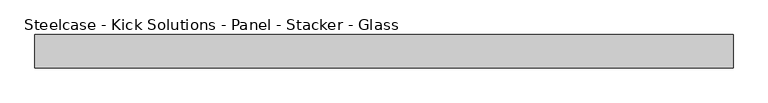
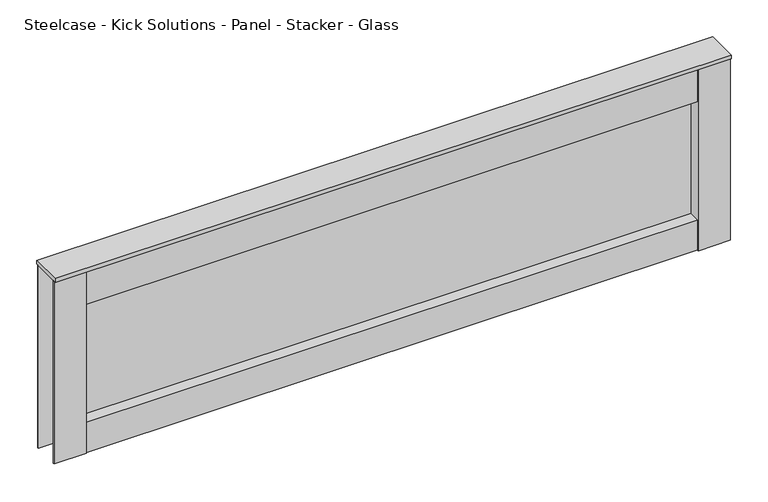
"""IFC4 building model written with IfcOpenShell, lengths in millimetres: furniture geometry, Steelcase - Kick Solutions - Panel - Stacker - Glass : 12H x 42W."""

from ifc_helpers import new_model, si_unit, frame, origin, place, context, project, spatial, polyline, outline, extrude, source, transform, mapped, element, save


def steelcase_kick_solutions_panel_stacker_glass_de6089d5(model_context):
    return source(origin(), model_context, "Body", "SweptSolid", [
        extrude(outline(polyline([(1016.0006661, -5.08), (1016.0006661, -45.7200015), (50.8006646, -45.7200015), (50.8006646, -5.08), (1016.0006661, -5.08)])), frame((0.0, 0.0, 1066.8), z_axis=(0.0, 0.0, 1.0), x_axis=(1.0, 0.0, 0.0)), (0.0, 0.0, 1.0), 50.6830951),
        extrude(outline(polyline([(1016.0006661, -5.08), (1016.0006661, -45.7200015), (50.8006646, -45.7200015), (50.8006646, -5.08), (1016.0006661, -5.08)])), frame((0.0, 0.0, 1314.45), z_axis=(0.0, 0.0, 1.0), x_axis=(1.0, 0.0, 0.0)), (0.0, 0.0, 1.0), 57.15),
        extrude(outline(polyline([(50.8006646, -3.1743148), (50.8006646, -47.6243142), (0.0, -47.6243142), (0.0, -45.7200015), (47.7526646, -45.7200015), (47.7526646, -5.08), (0.0, -5.08), (0.0, -3.1743148), (50.8006646, -3.1743148)])), frame((0.0, 0.0, 1066.8), z_axis=(0.0, 0.0, 1.0), x_axis=(1.0, 0.0, 0.0)), (0.0, 0.0, 1.0), 304.8),
        extrude(outline(polyline([(1016.0006661, -3.1743148), (1066.8, -3.1743148), (1066.8, -5.08), (1019.0486661, -5.08), (1019.0486661, -45.7200015), (1066.8, -45.7200015), (1066.8, -47.6243142), (1016.0006661, -47.6243142), (1016.0006661, -3.1743148)])), frame((0.0, 0.0, 1066.8), z_axis=(0.0, 0.0, 1.0), x_axis=(1.0, 0.0, 0.0)), (0.0, 0.0, 1.0), 304.8),
        extrude(outline(polyline([(1016.0006661, -28.422537), (50.8006646, -28.422537), (50.8006646, -25.4), (1016.0006661, -25.4), (1016.0006661, -28.422537)])), frame((0.0, 0.0, 1117.4830951), z_axis=(0.0, 0.0, 1.0), x_axis=(1.0, 0.0, 0.0)), (0.0, 0.0, 1.0), 196.9669049),
        extrude(outline(polyline([(1066.8, 0.0), (1066.8, -50.8000015), (0.0, -50.8000015), (0.0, 0.0), (1066.8, 0.0)])), frame((0.0, 0.0, 1371.6), z_axis=(0.0, 0.0, 1.0), x_axis=(1.0, 0.0, 0.0)), (0.0, 0.0, 1.0), 6.35),
    ])


if __name__ == "__main__":
    model = new_model("IFC4")
    model_context = context("Model", 3, world=origin())
    ifc_project = project(units=[si_unit("LENGTHUNIT", "METRE", prefix="MILLI")], contexts=[model_context])
    site = spatial("IfcSite", under=ifc_project)
    building = spatial("IfcBuilding", under=site)
    placement = place(None, origin())
    steelcase_kick_solutions_panel_stacker_glass_shape = steelcase_kick_solutions_panel_stacker_glass_de6089d5(model_context)
    element("IfcFurniture", 1, ObjectType="Steelcase - Kick Solutions - Panel - Stacker - Glass : 12H x 42W", at=placement, inside=building, context=model_context, shape_type="MappedRepresentation", body=[
        mapped(steelcase_kick_solutions_panel_stacker_glass_shape, transform((0.0, 0.0, 0.0), x_axis=(1.0, 0.0, 0.0), y_axis=(0.0, 1.0, 0.0), z_axis=(0.0, 0.0, 1.0))),
    ])
    save(model, "model.ifc")
